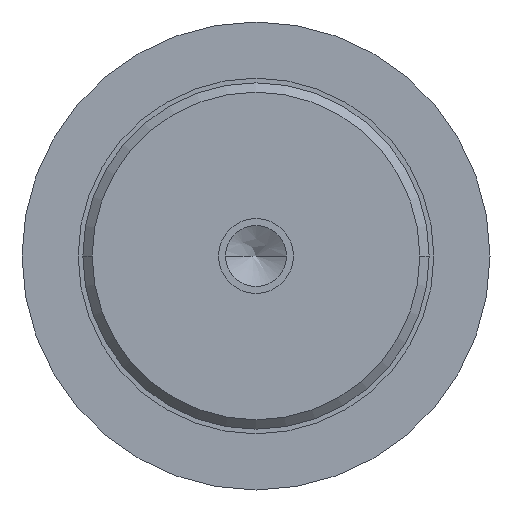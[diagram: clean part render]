
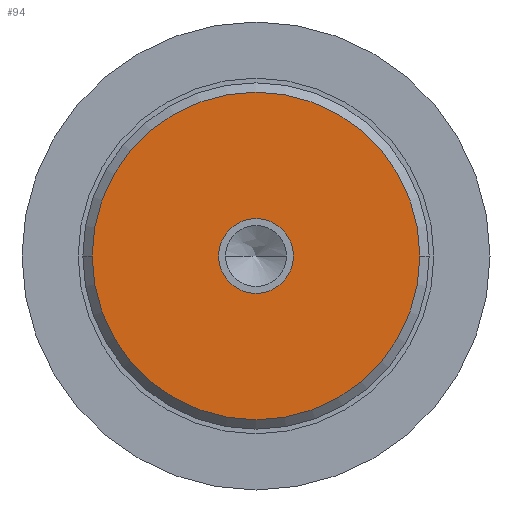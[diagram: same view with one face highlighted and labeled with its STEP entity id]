
A CAD part, left-side view. The second image highlights one B-rep face of the part: STEP entity #94.
In plain terms, the highlighted free-form (B-spline) face has degree [1, 1] with [2, 2] control points.
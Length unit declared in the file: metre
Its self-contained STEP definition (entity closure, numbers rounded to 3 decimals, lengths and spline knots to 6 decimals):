
#94 = ADVANCED_FACE( '', ( #155, #156 ), #157, .F. );
#155 = FACE_BOUND( '', #307, .T. );
#156 = FACE_OUTER_BOUND( '', #308, .T. );
#157 = B_SPLINE_SURFACE_WITH_KNOTS( '', 1, 1, ( ( #309, #310 ), ( #311, #312 ) ), .UNSPECIFIED., .F., .F., .F., ( 2, 2 ), ( 2, 2 ), ( 0., 1. ), ( 0., 1. ), .UNSPECIFIED. );
#307 = EDGE_LOOP( '', ( #503, #504 ) );
#308 = EDGE_LOOP( '', ( #505, #506 ) );
#309 = CARTESIAN_POINT( '', ( 0., -0.01771, -0.01771 ) );
#310 = CARTESIAN_POINT( '', ( 0., -0.01771, 0.01771 ) );
#311 = CARTESIAN_POINT( '', ( 0., 0.01771, -0.01771 ) );
#312 = CARTESIAN_POINT( '', ( 0., 0.01771, 0.01771 ) );
#503 = ORIENTED_EDGE( '', *, *, #686, .F. );
#504 = ORIENTED_EDGE( '', *, *, #684, .F. );
#505 = ORIENTED_EDGE( '', *, *, #689, .F. );
#506 = ORIENTED_EDGE( '', *, *, #690, .F. );
#684 = EDGE_CURVE( '', #778, #780, #781, .T. );
#686 = EDGE_CURVE( '', #780, #778, #783, .T. );
#689 = EDGE_CURVE( '', #787, #788, #789, .T. );
#690 = EDGE_CURVE( '', #788, #787, #790, .T. );
#778 = VERTEX_POINT( '', #910 );
#780 = VERTEX_POINT( '', #913 );
#781 = CIRCLE( '', #914, 0.004 );
#783 = CIRCLE( '', #917, 0.004 );
#787 = VERTEX_POINT( '', #923 );
#788 = VERTEX_POINT( '', #924 );
#789 = CIRCLE( '', #925, 0.0175 );
#790 = CIRCLE( '', #926, 0.0175 );
#910 = CARTESIAN_POINT( '', ( 0., -0.004, 0. ) );
#913 = CARTESIAN_POINT( '', ( 0., 0.004, 0. ) );
#914 = AXIS2_PLACEMENT_3D( '', #1076, #1077, #1078 );
#917 = AXIS2_PLACEMENT_3D( '', #1080, #1081, #1082 );
#923 = CARTESIAN_POINT( '', ( 0., 0.0175, 0. ) );
#924 = CARTESIAN_POINT( '', ( 0., -0.0175, 0. ) );
#925 = AXIS2_PLACEMENT_3D( '', #1085, #1086, #1087 );
#926 = AXIS2_PLACEMENT_3D( '', #1088, #1089, #1090 );
#1076 = CARTESIAN_POINT( '', ( 0., 0., 0. ) );
#1077 = DIRECTION( '', ( -1., 0., 0. ) );
#1078 = DIRECTION( '', ( 0., -1., 0. ) );
#1080 = CARTESIAN_POINT( '', ( 0., 0., 0. ) );
#1081 = DIRECTION( '', ( -1., 0., 0. ) );
#1082 = DIRECTION( '', ( 0., -1., 0. ) );
#1085 = CARTESIAN_POINT( '', ( 0., 0., 0. ) );
#1086 = DIRECTION( '', ( 1., 0., 0. ) );
#1087 = DIRECTION( '', ( 0., 1., 0. ) );
#1088 = CARTESIAN_POINT( '', ( 0., 0., 0. ) );
#1089 = DIRECTION( '', ( 1., 0., 0. ) );
#1090 = DIRECTION( '', ( 0., 1., 0. ) );
